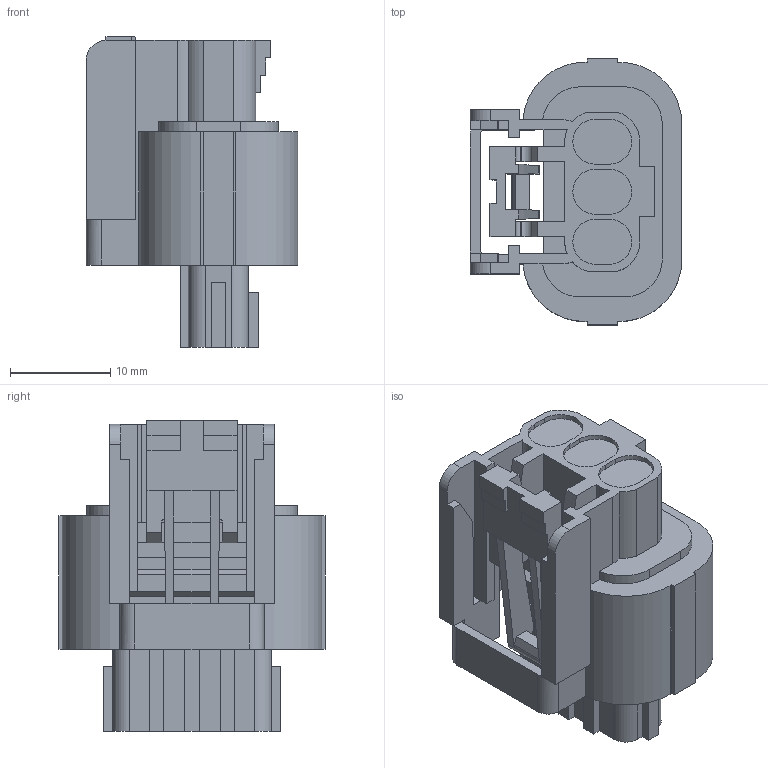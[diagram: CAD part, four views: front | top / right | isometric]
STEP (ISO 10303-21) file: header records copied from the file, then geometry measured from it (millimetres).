
FILE_DESCRIPTION(/* description */ (''),/* implementation_level */ '2;1');
FILE_NAME(/* name */ '13791661_ENV10_01.stp',/* time_stamp */ '2021-04-28T13:08:09+06:00',/* author */ (''),/* organization */ (''),/* preprocessor_version */ 'ST-DEVELOPER v16.7',/* originating_system */ 'SIEMENS PLM Software NX 12.0',/* authorisation */ '');
FILE_SCHEMA (('AP203_CONFIGURATION_CONTROLLED_3D_DESIGN_OF_MECHANICAL_PARTS_AND_ASSEMBLIES_MIM_LF { 1 0 10303 403 2 1 2}'));
Length unit declared in the file: millimetre
Products named in the file (1): qzs52CD894E09hxc
Bounding box: 21.16 x 26.6 x 31 mm (x, y, z)
Volume: 6101.5 mm3; surface area: 5269.9 mm2
Topology: 1 solids, 1 shells, 317 faces, 894 edges, 582 vertices
Faces by surface type: plane 244, cylinder 65, cone 8
Entity records: 10239 total; most frequent: CARTESIAN_POINT 1833, ORIENTED_EDGE 1788, DIRECTION 1655, EDGE_CURVE 894, LINE 747, VECTOR 747, VERTEX_POINT 582, AXIS2_PLACEMENT_3D 454
